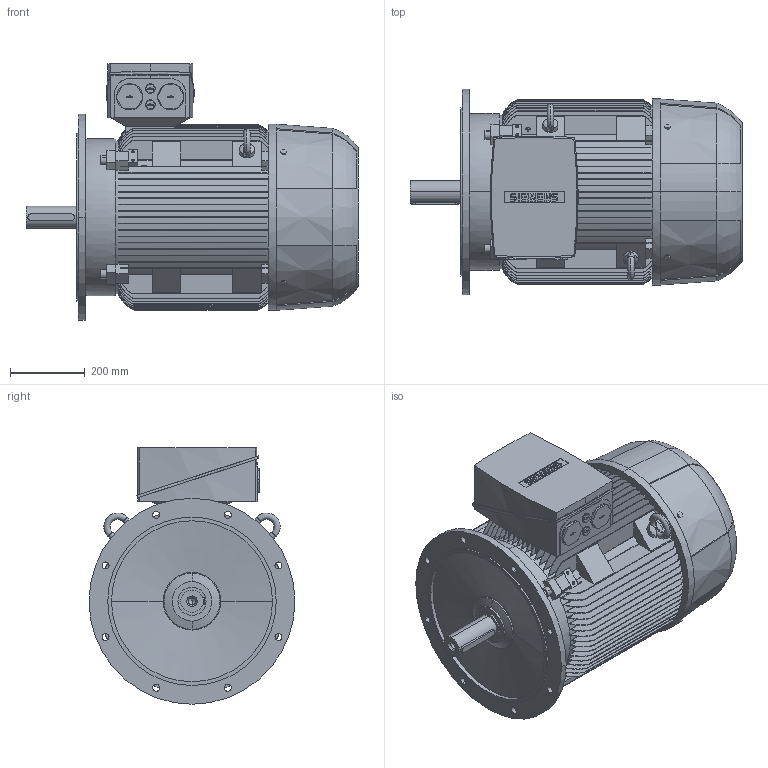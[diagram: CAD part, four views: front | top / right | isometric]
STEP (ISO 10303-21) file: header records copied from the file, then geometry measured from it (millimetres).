
FILE_DESCRIPTION(('STEP AP214'),'1');
FILE_NAME('cctmp_E62FEB15-70C4-4E5E-8310-4BBAAD2ED730_2020_6_30_12_49_29_277..stp','2020-06-30T10:49:30',('SIEMENS A&D'),('CADClick - www.CADClick.com'),'Spatial InterOp 3D',' ','unknown authorization');
FILE_SCHEMA(('AUTOMOTIVE_DESIGN'));
Length unit declared in the file: millimetre
Products named in the file (1): 2020_06_30__12-49-29-261
Bounding box: 887 x 550 x 685 mm (x, y, z)
Volume: 124995521.5 mm3; surface area: 4245374.8 mm2
Topology: 1 solids, 1 shells, 1075 faces, 3014 edges, 1993 vertices
Faces by surface type: plane 624, cylinder 261, torus 166, cone 24
Entity records: 55370 total; most frequent: CARTESIAN_POINT 19646, ORIENTED_EDGE 6024, DIRECTION 5173, EDGE_CURVE 3012, VERTEX_POINT 1993, LINE 1727, VECTOR 1727, AXIS2_PLACEMENT_3D 1723
